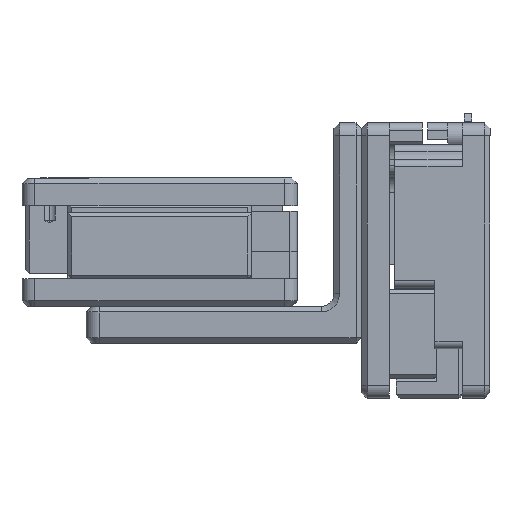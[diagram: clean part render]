
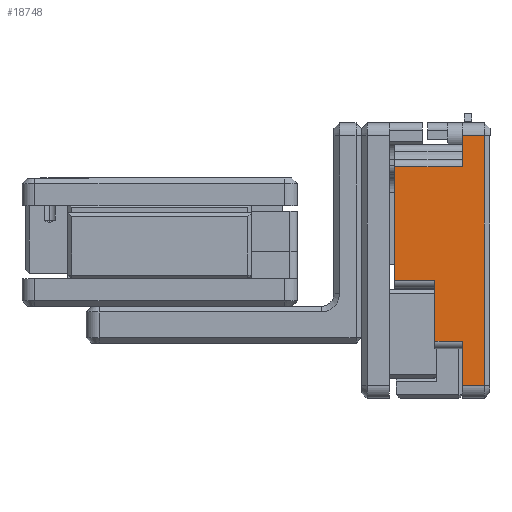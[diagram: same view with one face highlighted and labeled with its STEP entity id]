
A CAD part, left-side view. The second image highlights one B-rep face of the part: STEP entity #18748.
In plain terms, the highlighted planar face has unit normal (-1, 0, 0).
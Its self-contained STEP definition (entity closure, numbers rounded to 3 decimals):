
#193 = VECTOR ( 'NONE', #21724, 1000. ) ;
#491 = ORIENTED_EDGE ( 'NONE', *, *, #26819, .T. ) ;
#686 = DIRECTION ( 'NONE',  ( 0., 0., 1. ) ) ;
#733 = LINE ( 'NONE', #32453, #3503 ) ;
#1025 = CARTESIAN_POINT ( 'NONE',  ( -7.5, 1.5, 7.5 ) ) ;
#1775 = VERTEX_POINT ( 'NONE', #7571 ) ;
#1787 = ORIENTED_EDGE ( 'NONE', *, *, #16224, .F. ) ;
#2797 = CARTESIAN_POINT ( 'NONE',  ( -7.5, 1.5, 6.8 ) ) ;
#3503 = VECTOR ( 'NONE', #29864, 1000. ) ;
#3564 = VECTOR ( 'NONE', #29497, 1000. ) ;
#3710 = CARTESIAN_POINT ( 'NONE',  ( -7.5, 0.3, 6.8 ) ) ;
#3966 = CARTESIAN_POINT ( 'NONE',  ( -7.5, 1.5, 5.1 ) ) ;
#4108 = CARTESIAN_POINT ( 'NONE',  ( -7.5, 1.5, -4.4 ) ) ;
#5022 = EDGE_CURVE ( 'NONE', #10805, #1775, #733, .T. ) ;
#5631 = ORIENTED_EDGE ( 'NONE', *, *, #12903, .F. ) ;
#5802 = ORIENTED_EDGE ( 'NONE', *, *, #12166, .F. ) ;
#6685 = VERTEX_POINT ( 'NONE', #26439 ) ;
#6994 = LINE ( 'NONE', #29293, #14430 ) ;
#7239 = VECTOR ( 'NONE', #15468, 1000. ) ;
#7243 = VECTOR ( 'NONE', #686, 1000. ) ;
#7571 = CARTESIAN_POINT ( 'NONE',  ( -7.5, 3., -4.4 ) ) ;
#8114 = CARTESIAN_POINT ( 'NONE',  ( -7.5, 1.5, -6.8 ) ) ;
#8435 = CARTESIAN_POINT ( 'NONE',  ( -7.5, 1.5, 0. ) ) ;
#8694 = DIRECTION ( 'NONE',  ( 1., 0., 0. ) ) ;
#8736 = ORIENTED_EDGE ( 'NONE', *, *, #28845, .F. ) ;
#8794 = DIRECTION ( 'NONE',  ( 0., 0., -1. ) ) ;
#10127 = VERTEX_POINT ( 'NONE', #22116 ) ;
#10411 = VERTEX_POINT ( 'NONE', #15464 ) ;
#10805 = VERTEX_POINT ( 'NONE', #4108 ) ;
#10892 = VERTEX_POINT ( 'NONE', #24822 ) ;
#11434 = VERTEX_POINT ( 'NONE', #21006 ) ;
#11749 = CARTESIAN_POINT ( 'NONE',  ( -7.5, 0.3, 7.5 ) ) ;
#11770 = VECTOR ( 'NONE', #26015, 1000. ) ;
#11905 = VECTOR ( 'NONE', #23097, 1000. ) ;
#12067 = VECTOR ( 'NONE', #18324, 1000. ) ;
#12166 = EDGE_CURVE ( 'NONE', #11434, #19491, #30157, .T. ) ;
#12721 = EDGE_CURVE ( 'NONE', #19491, #10127, #21783, .T. ) ;
#12903 = EDGE_CURVE ( 'NONE', #10411, #6685, #27295, .T. ) ;
#13245 = CARTESIAN_POINT ( 'NONE',  ( -7.5, 3., 7.5 ) ) ;
#14430 = VECTOR ( 'NONE', #26875, 1000. ) ;
#15464 = CARTESIAN_POINT ( 'NONE',  ( -7.5, 0.3, -6.8 ) ) ;
#15468 = DIRECTION ( 'NONE',  ( 0., 1., 0. ) ) ;
#16224 = EDGE_CURVE ( 'NONE', #1775, #10892, #26100, .T. ) ;
#17339 = LINE ( 'NONE', #8435, #11770 ) ;
#17921 = VECTOR ( 'NONE', #31984, 1000. ) ;
#18143 = LINE ( 'NONE', #11749, #3564 ) ;
#18298 = LINE ( 'NONE', #19258, #17921 ) ;
#18324 = DIRECTION ( 'NONE',  ( 0., -1., 0. ) ) ;
#18748 = ADVANCED_FACE ( 'NONE', ( #23908 ), #28693, .F. ) ;
#18788 = ORIENTED_EDGE ( 'NONE', *, *, #30856, .F. ) ;
#19258 = CARTESIAN_POINT ( 'NONE',  ( -7.5, 1.5, 0. ) ) ;
#19491 = VERTEX_POINT ( 'NONE', #31744 ) ;
#19823 = ORIENTED_EDGE ( 'NONE', *, *, #12721, .F. ) ;
#21006 = CARTESIAN_POINT ( 'NONE',  ( -7.5, 5.2, -1.1 ) ) ;
#21724 = DIRECTION ( 'NONE',  ( 0., 0., 1. ) ) ;
#21783 = LINE ( 'NONE', #3966, #11905 ) ;
#21935 = ORIENTED_EDGE ( 'NONE', *, *, #24514, .T. ) ;
#22116 = CARTESIAN_POINT ( 'NONE',  ( -7.5, 1.5, 5.1 ) ) ;
#23043 = VERTEX_POINT ( 'NONE', #3710 ) ;
#23097 = DIRECTION ( 'NONE',  ( 0., -1., 0. ) ) ;
#23908 = FACE_OUTER_BOUND ( 'NONE', #25155, .T. ) ;
#24514 = EDGE_CURVE ( 'NONE', #29862, #10127, #17339, .T. ) ;
#24822 = CARTESIAN_POINT ( 'NONE',  ( -7.5, 3., -1.1 ) ) ;
#25155 = EDGE_LOOP ( 'NONE', ( #19823, #5802, #31563, #1787, #30314, #491, #5631, #18788, #8736, #21935 ) ) ;
#26015 = DIRECTION ( 'NONE',  ( 0., 0., -1. ) ) ;
#26100 = LINE ( 'NONE', #13245, #7243 ) ;
#26439 = CARTESIAN_POINT ( 'NONE',  ( -7.5, 1.5, -6.8 ) ) ;
#26819 = EDGE_CURVE ( 'NONE', #10805, #6685, #18298, .T. ) ;
#26875 = DIRECTION ( 'NONE',  ( 0., 1., 0. ) ) ;
#26900 = CARTESIAN_POINT ( 'NONE',  ( -7.5, 5.2, 7.5 ) ) ;
#27295 = LINE ( 'NONE', #8114, #7239 ) ;
#28031 = EDGE_CURVE ( 'NONE', #10892, #11434, #6994, .T. ) ;
#28693 = PLANE ( 'NONE',  #29408 ) ;
#28845 = EDGE_CURVE ( 'NONE', #29862, #23043, #32517, .T. ) ;
#29293 = CARTESIAN_POINT ( 'NONE',  ( -7.5, 1.5, -1.1 ) ) ;
#29408 = AXIS2_PLACEMENT_3D ( 'NONE', #1025, #8694, #8794 ) ;
#29497 = DIRECTION ( 'NONE',  ( 0., 0., -1. ) ) ;
#29862 = VERTEX_POINT ( 'NONE', #2797 ) ;
#29864 = DIRECTION ( 'NONE',  ( 0., 1., 0. ) ) ;
#30157 = LINE ( 'NONE', #26900, #193 ) ;
#30314 = ORIENTED_EDGE ( 'NONE', *, *, #5022, .F. ) ;
#30856 = EDGE_CURVE ( 'NONE', #23043, #10411, #18143, .T. ) ;
#31525 = CARTESIAN_POINT ( 'NONE',  ( -7.5, 1.5, 6.8 ) ) ;
#31563 = ORIENTED_EDGE ( 'NONE', *, *, #28031, .F. ) ;
#31744 = CARTESIAN_POINT ( 'NONE',  ( -7.5, 5.2, 5.1 ) ) ;
#31984 = DIRECTION ( 'NONE',  ( 0., 0., -1. ) ) ;
#32453 = CARTESIAN_POINT ( 'NONE',  ( -7.5, 1.5, -4.4 ) ) ;
#32517 = LINE ( 'NONE', #31525, #12067 ) ;
